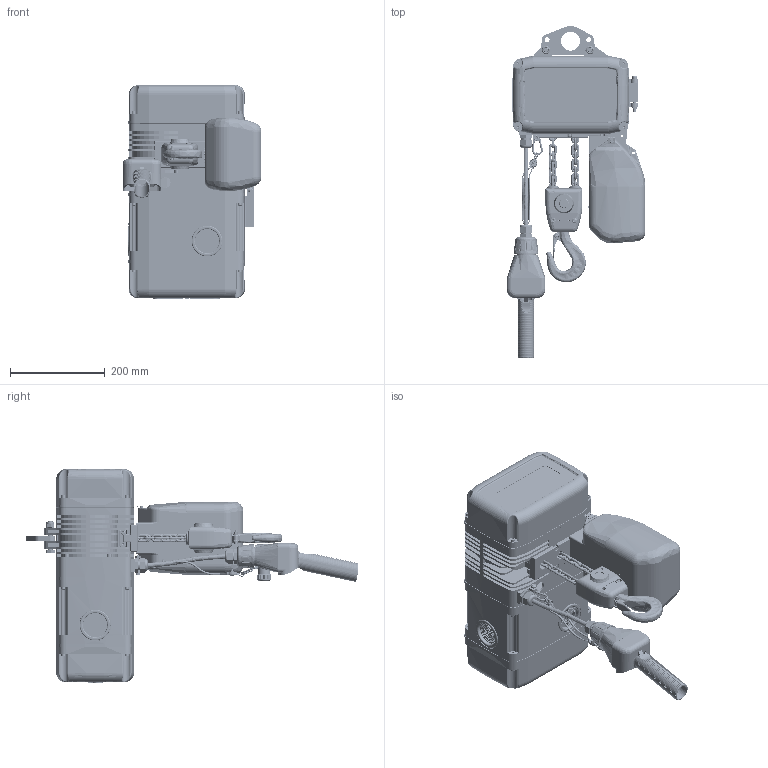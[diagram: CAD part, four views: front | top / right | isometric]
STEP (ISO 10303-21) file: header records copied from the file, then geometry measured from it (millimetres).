
FILE_DESCRIPTION((''),'2;1');
FILE_NAME('G:\Technik\3D-Dateien light\GCHFU500;2 9400.9254.L.stp','2012-10-10T16:26:27',('gispen'),(''),'Autodesk Inventor 2012','Autodesk Inventor 2012','');
FILE_SCHEMA(('AUTOMOTIVE_DESIGN { 1 0 10303 214 1 1 1 1 }'));
Length unit declared in the file: millimetre
Products named in the file (1): 9400.9254
Bounding box: 292.85 x 700.74 x 451 mm (x, y, z)
Volume: 5079065.4 mm3; surface area: 2150264.7 mm2
Topology: 9 solids, 43 shells, 8366 faces, 22849 edges, 14573 vertices
Faces by surface type: plane 3975, cylinder 2689, bspline 784, torus 620, cone 180, sphere 112, revolution 6
Full cylindrical faces by diameter (mm): 1.2 x3, 1.5 x12, 2 x25, 2.4 x4, 2.459 x8, 2.75 x2, 2.85 x4, 3 x4, 3.2 x4, 3.5 x9, 4 x17, 4.134 x30, 4.2 x1, 4.3 x2, 4.5 x1, 4.8 x1, 4.917 x5, 5 x29, 5.1 x2, 5.2 x4, 5.3 x14, 5.4 x3, 5.5 x15, 5.8 x4, 6 x24, 6.3 x3, 6.4 x8, 7 x1, 8 x7, 8.3 x2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
Entity records: 298281 total; most frequent: CARTESIAN_POINT 85955, ORIENTED_EDGE 43650, DIRECTION 40026, EDGE_CURVE 21825, VERTEX_POINT 14222, AXIS2_PLACEMENT_3D 14141, VECTOR 11738, LINE 11738
